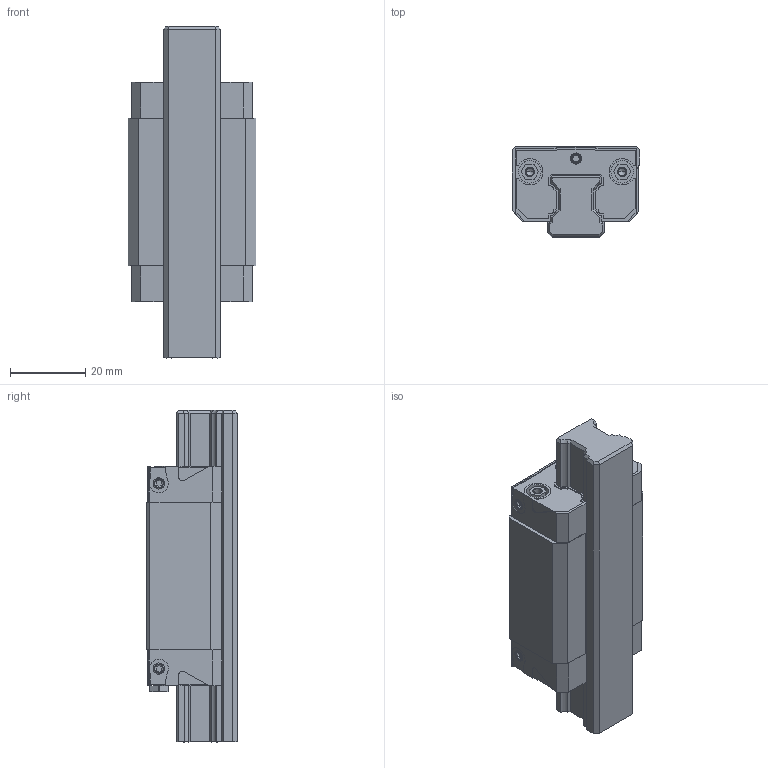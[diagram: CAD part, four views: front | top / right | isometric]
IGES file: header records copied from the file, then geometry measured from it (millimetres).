
Start section: 3D InterOp IGES (v. 2019 1.0.2), Spatial Corp. Copyright (c) 1999-2017.
Global section: file name: R2011 ... 90_size15.igs; native system: Spatial Corp.; preprocessor: 3D InterOp GENERIC/IGES 3.0; author: Noname; organization: Noname; date: 20220629.155233; units: millimetre
Bounding box: 34 x 24 x 88.2 mm (x, y, z)
Surface area: 20283.5 mm2 (no closed solid volume)
Topology: 0 solids, 0 shells, 509 faces, 2670 edges, 2648 vertices
Faces by surface type: extrusion 291, revolution 218
